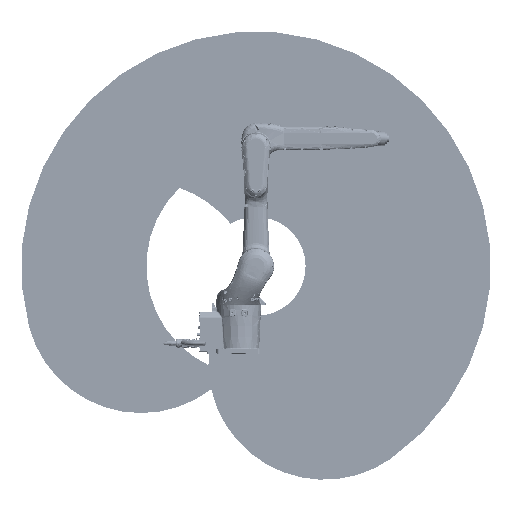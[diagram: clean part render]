
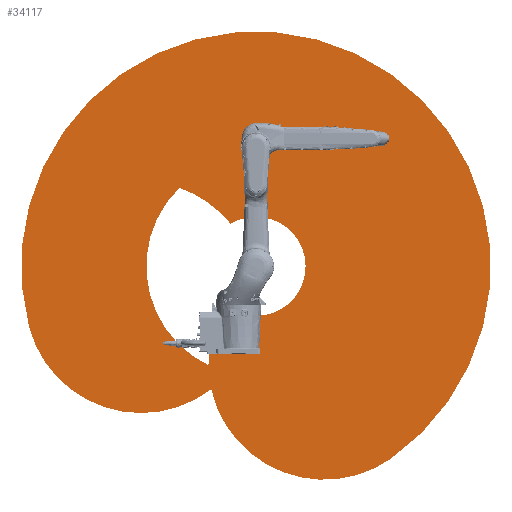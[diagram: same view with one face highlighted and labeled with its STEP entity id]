
A CAD part, front view. The second image highlights one B-rep face of the part: STEP entity #34117.
In plain terms, the highlighted planar face has unit normal (0, -1, 0) as drawn and (0, 0, 1) by its records, which use the part's own axes.
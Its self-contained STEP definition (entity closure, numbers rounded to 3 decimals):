
#16997=FACE_BOUND('',#59313,.T.);
#16998=FACE_BOUND('',#59314,.T.);
#23887=CIRCLE('',#174604,661.891);
#23888=CIRCLE('',#174605,1341.891);
#23889=CIRCLE('',#174606,661.891);
#23890=CIRCLE('',#174607,626.746);
#23891=CIRCLE('',#174608,661.891);
#23892=CIRCLE('',#174609,283.354);
#23893=CIRCLE('',#174610,661.891);
#34117=ADVANCED_FACE('',(#16997,#16998),#38691,.T.);
#38691=PLANE('',#174611);
#59313=EDGE_LOOP('',(#103609,#103610,#103611));
#59314=EDGE_LOOP('',(#103612,#103613,#103614,#103615));
#103609=ORIENTED_EDGE('',*,*,#139502,.T.);
#103610=ORIENTED_EDGE('',*,*,#139503,.T.);
#103611=ORIENTED_EDGE('',*,*,#139504,.T.);
#103612=ORIENTED_EDGE('',*,*,#139505,.T.);
#103613=ORIENTED_EDGE('',*,*,#139506,.T.);
#103614=ORIENTED_EDGE('',*,*,#139507,.T.);
#103615=ORIENTED_EDGE('',*,*,#139508,.T.);
#117348=VERTEX_POINT('',#400803);
#117349=VERTEX_POINT('',#400804);
#117350=VERTEX_POINT('',#400806);
#117351=VERTEX_POINT('',#400809);
#117352=VERTEX_POINT('',#400810);
#117353=VERTEX_POINT('',#400812);
#117354=VERTEX_POINT('',#400814);
#139502=EDGE_CURVE('',#117348,#117349,#23887,.T.);
#139503=EDGE_CURVE('',#117349,#117350,#23888,.T.);
#139504=EDGE_CURVE('',#117350,#117348,#23889,.T.);
#139505=EDGE_CURVE('',#117351,#117352,#23890,.T.);
#139506=EDGE_CURVE('',#117352,#117353,#23891,.T.);
#139507=EDGE_CURVE('',#117353,#117354,#23892,.T.);
#139508=EDGE_CURVE('',#117354,#117351,#23893,.T.);
#174604=AXIS2_PLACEMENT_3D('',#400802,#216144,#216145);
#174605=AXIS2_PLACEMENT_3D('',#400805,#216146,#216147);
#174606=AXIS2_PLACEMENT_3D('',#400807,#216148,#216149);
#174607=AXIS2_PLACEMENT_3D('',#400808,#216150,#216151);
#174608=AXIS2_PLACEMENT_3D('',#400811,#216152,#216153);
#174609=AXIS2_PLACEMENT_3D('',#400813,#216154,#216155);
#174610=AXIS2_PLACEMENT_3D('',#400815,#216156,#216157);
#174611=AXIS2_PLACEMENT_3D('',#400816,#216158,#216159);
#216144=DIRECTION('',(0.,0.,1.));
#216145=DIRECTION('',(1.,0.,0.));
#216146=DIRECTION('',(0.,0.,1.));
#216147=DIRECTION('',(1.,0.,0.));
#216148=DIRECTION('',(0.,0.,1.));
#216149=DIRECTION('',(1.,0.,0.));
#216150=DIRECTION('',(0.,0.,-1.));
#216151=DIRECTION('',(1.,0.,0.));
#216152=DIRECTION('',(0.,0.,-1.));
#216153=DIRECTION('',(1.,0.,0.));
#216154=DIRECTION('',(0.,0.,-1.));
#216155=DIRECTION('',(1.,0.,0.));
#216156=DIRECTION('',(0.,0.,1.));
#216157=DIRECTION('',(1.,0.,0.));
#216158=DIRECTION('',(0.,0.,1.));
#216159=DIRECTION('',(1.,0.,0.));
#400802=CARTESIAN_POINT('',(8176.174,-125.568,0.));
#400803=CARTESIAN_POINT('',(7530.462,-271.02,0.));
#400804=CARTESIAN_POINT('',(8555.819,-667.758,0.));
#400805=CARTESIAN_POINT('',(7786.142,431.455,0.));
#400806=CARTESIAN_POINT('',(6489.975,84.148,0.));
#400807=CARTESIAN_POINT('',(7129.313,255.458,0.));
#400808=CARTESIAN_POINT('',(7786.142,431.455,0.));
#400809=CARTESIAN_POINT('',(7514.328,-133.281,0.));
#400810=CARTESIAN_POINT('',(7348.43,880.028,0.));
#400811=CARTESIAN_POINT('',(7129.313,255.458,0.));
#400812=CARTESIAN_POINT('',(7641.274,674.976,0.));
#400813=CARTESIAN_POINT('',(7786.142,431.455,0.));
#400814=CARTESIAN_POINT('',(7606.855,212.035,0.));
#400815=CARTESIAN_POINT('',(8176.174,-125.568,0.));
#400816=CARTESIAN_POINT('',(7981.158,152.944,0.));
